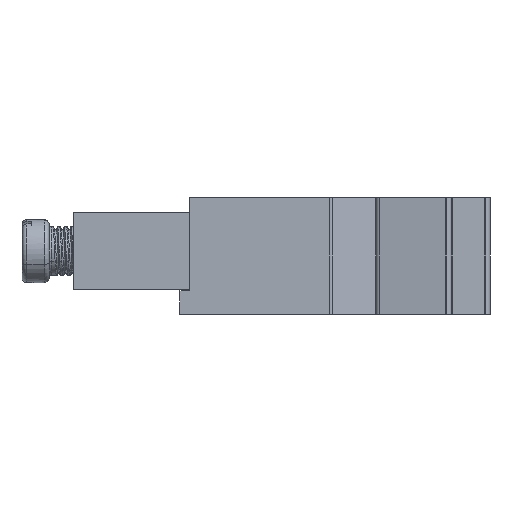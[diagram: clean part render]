
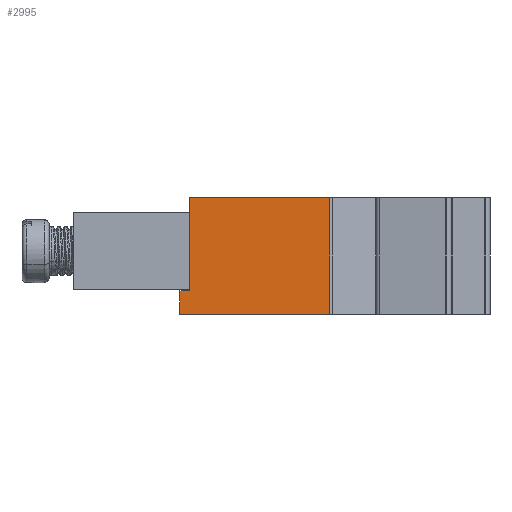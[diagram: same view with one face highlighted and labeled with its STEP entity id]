
A CAD part, left-side view. The second image highlights one B-rep face of the part: STEP entity #2995.
In plain terms, the highlighted planar face has unit normal (-1, 0, 0).
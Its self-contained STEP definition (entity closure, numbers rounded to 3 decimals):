
#19 = VERTEX_POINT ( 'NONE', #5973 ) ;
#249 = VERTEX_POINT ( 'NONE', #3165 ) ;
#322 = LINE ( 'NONE', #4030, #6770 ) ;
#743 = CARTESIAN_POINT ( 'NONE',  ( 0., 0., 12. ) ) ;
#748 = CARTESIAN_POINT ( 'NONE',  ( 0., 1., 2.4 ) ) ;
#944 = ORIENTED_EDGE ( 'NONE', *, *, #15602, .F. ) ;
#1096 = VECTOR ( 'NONE', #9766, 1000. ) ;
#1192 = VECTOR ( 'NONE', #3345, 1000. ) ;
#1813 = DIRECTION ( 'NONE',  ( 0., -1., 0. ) ) ;
#1943 = EDGE_CURVE ( 'NONE', #12163, #249, #4928, .T. ) ;
#2728 = DIRECTION ( 'NONE',  ( 0., 0., -1. ) ) ;
#2995 = ADVANCED_FACE ( 'NONE', ( #9967 ), #13621, .F. ) ;
#3021 = CARTESIAN_POINT ( 'NONE',  ( 0., -14.6, 12. ) ) ;
#3165 = CARTESIAN_POINT ( 'NONE',  ( 0., -14.487, 12. ) ) ;
#3210 = VECTOR ( 'NONE', #1813, 1000. ) ;
#3301 = ORIENTED_EDGE ( 'NONE', *, *, #14792, .T. ) ;
#3345 = DIRECTION ( 'NONE',  ( 0., 0., -1. ) ) ;
#4030 = CARTESIAN_POINT ( 'NONE',  ( 0., 1., 2.4 ) ) ;
#4131 = CARTESIAN_POINT ( 'NONE',  ( 0., 1., 0. ) ) ;
#4185 = EDGE_LOOP ( 'NONE', ( #3301, #14797, #944, #8049, #14473, #12382 ) ) ;
#4480 = EDGE_CURVE ( 'NONE', #12276, #19, #5027, .T. ) ;
#4928 = LINE ( 'NONE', #7212, #1096 ) ;
#5027 = LINE ( 'NONE', #743, #1192 ) ;
#5860 = DIRECTION ( 'NONE',  ( 1., 0., 0. ) ) ;
#5973 = CARTESIAN_POINT ( 'NONE',  ( 0., 0., 2.4 ) ) ;
#6383 = VECTOR ( 'NONE', #10748, 1000. ) ;
#6770 = VECTOR ( 'NONE', #2728, 1000. ) ;
#7129 = EDGE_CURVE ( 'NONE', #7439, #15451, #322, .T. ) ;
#7212 = CARTESIAN_POINT ( 'NONE',  ( 0., -14.487, 12. ) ) ;
#7439 = VERTEX_POINT ( 'NONE', #748 ) ;
#8049 = ORIENTED_EDGE ( 'NONE', *, *, #4480, .T. ) ;
#8925 = EDGE_CURVE ( 'NONE', #19, #7439, #12329, .T. ) ;
#9766 = DIRECTION ( 'NONE',  ( 0., 0., 1. ) ) ;
#9967 = FACE_OUTER_BOUND ( 'NONE', #4185, .T. ) ;
#10462 = LINE ( 'NONE', #11999, #3210 ) ;
#10748 = DIRECTION ( 'NONE',  ( 0., -1., 0. ) ) ;
#10752 = CARTESIAN_POINT ( 'NONE',  ( 0., -14.487, 0. ) ) ;
#11022 = CARTESIAN_POINT ( 'NONE',  ( 0., -14.6, 12. ) ) ;
#11999 = CARTESIAN_POINT ( 'NONE',  ( 0., -14.6, 0. ) ) ;
#12163 = VERTEX_POINT ( 'NONE', #10752 ) ;
#12276 = VERTEX_POINT ( 'NONE', #16255 ) ;
#12329 = LINE ( 'NONE', #16432, #15761 ) ;
#12382 = ORIENTED_EDGE ( 'NONE', *, *, #7129, .T. ) ;
#13621 = PLANE ( 'NONE',  #16494 ) ;
#14473 = ORIENTED_EDGE ( 'NONE', *, *, #8925, .T. ) ;
#14792 = EDGE_CURVE ( 'NONE', #15451, #12163, #10462, .T. ) ;
#14797 = ORIENTED_EDGE ( 'NONE', *, *, #1943, .T. ) ;
#14908 = DIRECTION ( 'NONE',  ( 0., 0., -1. ) ) ;
#15451 = VERTEX_POINT ( 'NONE', #4131 ) ;
#15602 = EDGE_CURVE ( 'NONE', #12276, #249, #16696, .T. ) ;
#15761 = VECTOR ( 'NONE', #16320, 1000. ) ;
#16255 = CARTESIAN_POINT ( 'NONE',  ( 0., 0., 12. ) ) ;
#16320 = DIRECTION ( 'NONE',  ( 0., 1., 0. ) ) ;
#16432 = CARTESIAN_POINT ( 'NONE',  ( 0., 0., 2.4 ) ) ;
#16494 = AXIS2_PLACEMENT_3D ( 'NONE', #11022, #5860, #14908 ) ;
#16696 = LINE ( 'NONE', #3021, #6383 ) ;
